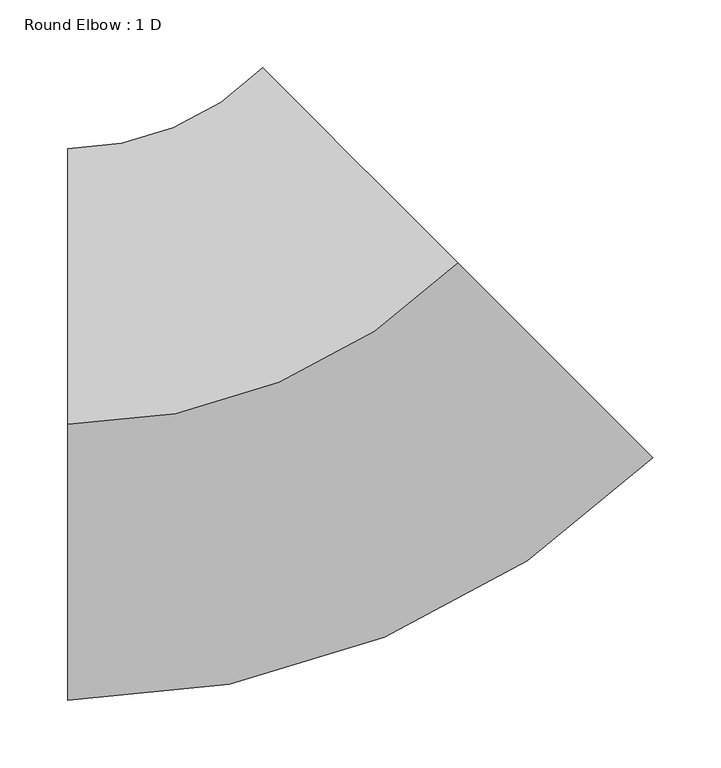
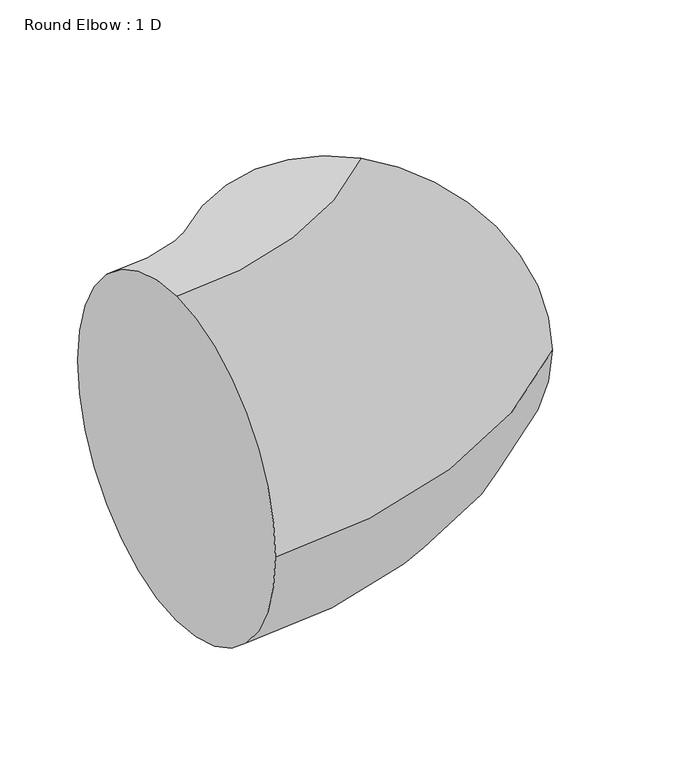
"""IFC4 building model written with IfcOpenShell, lengths in millimetres: duct fitting geometry, Round Elbow : 1 D."""

from ifc_helpers import new_model, si_unit, point, frame, origin, place, context, project, spatial, circle_curve, ellipse_curve, trimmed, source, transform, mapped, element, save
from ifc_brep_helpers import plane_surface, revolved_surface, advanced_brep


def round_elbow_1_d_30de4f45(model_context):
    return source(origin(), model_context, "Body", "AdvancedBrep", [
        advanced_brep(
        [(-168.3363917, 0.0, 203.2), (-168.3363917, 203.2, 0.0), (-168.3363917, 0.0, -203.2), (-168.3363917, -203.2, 0.0), (119.0318041, 119.0318041, 203.2), (262.7159021, -24.6522938, 0.0), (119.0318041, 119.0318041, -203.2), (-24.6522938, 262.7159021, 0.0)],
        [
            (0, 1, circle_curve(frame((-168.3363917, 0.0, 0.0), z_axis=(-1.0, 0.0, 0.0), x_axis=(0.0, 1.0, 0.0)), 203.2)),
            (1, 2, circle_curve(frame((-168.3363917, 0.0, 0.0), z_axis=(-1.0, 0.0, 0.0), x_axis=(0.0, 1.0, 0.0)), 203.2)),
            (2, 3, circle_curve(frame((-168.3363917, 0.0, 0.0), z_axis=(-1.0, 0.0, 0.0), x_axis=(0.0, 1.0, 0.0)), 203.2)),
            (3, 0, circle_curve(frame((-168.3363917, 0.0, 0.0), z_axis=(-1.0, 0.0, 0.0), x_axis=(0.0, 1.0, 0.0)), 203.2)),
            (4, 5, circle_curve(frame((119.0318041, 119.0318041, 0.0), z_axis=(0.707106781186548, 0.707106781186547, 0.0), x_axis=(-0.707106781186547, 0.707106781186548, 0.0)), 203.2)),
            (5, 6, circle_curve(frame((119.0318041, 119.0318041, 0.0), z_axis=(0.707106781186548, 0.707106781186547, 0.0), x_axis=(-0.707106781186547, 0.707106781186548, 0.0)), 203.2)),
            (6, 7, circle_curve(frame((119.0318041, 119.0318041, 0.0), z_axis=(0.707106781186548, 0.707106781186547, 0.0), x_axis=(-0.707106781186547, 0.707106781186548, 0.0)), 203.2)),
            (7, 4, circle_curve(frame((119.0318041, 119.0318041, 0.0), z_axis=(0.707106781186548, 0.707106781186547, 0.0), x_axis=(-0.707106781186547, 0.707106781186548, 0.0)), 203.2)),
            (7, 1, circle_curve(frame((-168.3363917, 406.4, 0.0), z_axis=(0.0, 0.0, -1.0), x_axis=(0.0, -1.0, 0.0)), 203.2)),
            (0, 4, circle_curve(frame((-168.3363917, 406.4, 203.2), z_axis=(0.0, 0.0, 1.0), x_axis=(0.0, -1.0, 0.0)), 406.4)),
            (6, 2, circle_curve(frame((-168.3363917, 406.4, -203.2), z_axis=(0.0, 0.0, -1.0), x_axis=(0.0, -1.0, 0.0)), 406.4)),
            (5, 3, circle_curve(frame((-168.3363917, 406.4, 0.0), z_axis=(0.0, 0.0, -1.0), x_axis=(0.0, -1.0, 0.0)), 609.6)),
        ],
        [
            plane_surface(frame((-168.3363917, 0.0, 0.0), z_axis=(-1.0, 0.0, 0.0), x_axis=(0.0, 0.0, 1.0))),
            plane_surface(frame((119.0318041, 119.0318041, 0.0), z_axis=(0.707106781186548, 0.7071067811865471, 0.0), x_axis=(0.0, 0.0, 1.0))),
            revolved_surface(trimmed(ellipse_curve(frame((-168.3363917, 0.0, 0.0), z_axis=(-1.0, 0.0, 0.0), x_axis=(0.0, 1.0, 0.0)), 203.2, 203.2), [point((-168.3363917, 0.0, 203.2))], [point((-168.3363917, 203.2, 0.0))], True, "CARTESIAN"), (-168.3363917, 406.4, 0.0), (0.0, 0.0, 1.0)),
            revolved_surface(trimmed(ellipse_curve(frame((-168.3363917, 0.0, 0.0), z_axis=(-1.0, 0.0, 0.0), x_axis=(0.0, 1.0, 0.0)), 203.2, 203.2), [point((-168.3363917, 203.2, 0.0))], [point((-168.3363917, 0.0, -203.2))], True, "CARTESIAN"), (-168.3363917, 406.4, 0.0), (0.0, 0.0, 1.0)),
            revolved_surface(trimmed(ellipse_curve(frame((-168.3363917, 0.0, 0.0), z_axis=(-1.0, 0.0, 0.0), x_axis=(0.0, 1.0, 0.0)), 203.2, 203.2), [point((-168.3363917, 0.0, -203.2))], [point((-168.3363917, -203.2, 0.0))], True, "CARTESIAN"), (-168.3363917, 406.4, 0.0), (0.0, 0.0, 1.0)),
            revolved_surface(trimmed(ellipse_curve(frame((-168.3363917, 0.0, 0.0), z_axis=(-1.0, 0.0, 0.0), x_axis=(0.0, 1.0, 0.0)), 203.2, 203.2), [point((-168.3363917, -203.2, 0.0))], [point((-168.3363917, 0.0, 203.2))], True, "CARTESIAN"), (-168.3363917, 406.4, 0.0), (0.0, 0.0, 1.0)),
        ],
        [
            (0, [[1, 2, 3, 4]]),
            (1, [[5, 6, 7, 8]]),
            (2, [[9, -1, 10, -8]]),
            (3, [[11, -2, -9, -7]]),
            (4, [[12, -3, -11, -6]]),
            (5, [[-10, -4, -12, -5]]),
        ],
    ),
    ])


if __name__ == "__main__":
    model = new_model("IFC4")
    model_context = context("Model", 3, world=origin())
    ifc_project = project(units=[si_unit("LENGTHUNIT", "METRE", prefix="MILLI")], contexts=[model_context])
    site = spatial("IfcSite", under=ifc_project)
    building = spatial("IfcBuilding", under=site)
    placement = place(None, origin())
    round_elbow_1_d_shape = round_elbow_1_d_30de4f45(model_context)
    element("IfcDuctFitting", 1, ObjectType="Round Elbow : 1 D", at=placement, inside=building, context=model_context, shape_type="MappedRepresentation", body=[
        mapped(round_elbow_1_d_shape, transform((0.0, 0.0, 0.0), x_axis=(1.0, 0.0, 0.0), y_axis=(0.0, 1.0, 0.0), z_axis=(0.0, 0.0, 1.0))),
    ])
    save(model, "model.ifc")
